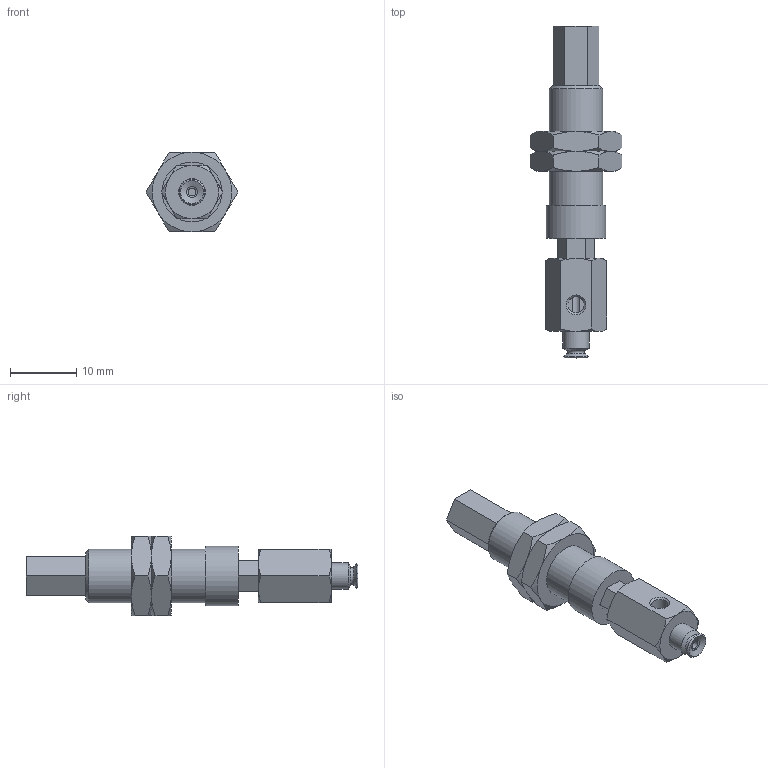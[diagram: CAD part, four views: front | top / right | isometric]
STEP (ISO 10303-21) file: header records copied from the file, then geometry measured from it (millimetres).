
FILE_DESCRIPTION(('STEP AP203'),'1');
FILE_NAME('.stp','2025-04-10T02:12:22',(' '),(' '),'Spatial InterOp 3D',' ',' ');
FILE_SCHEMA(('CONFIG_CONTROL_DESIGN'));
Length unit declared in the file: millimetre
Products named in the file (6): BNABPFYH-3.5A-3-※; CONNECTOR-H-3.5A-3; Nut-3.5A-3-h; NAPFTH-3.5A-3-FBODY; NAPFTH-3.5A-3-MBODY; BPFG-3.5A-※
Assembly tree (6 placements, depth 2):
  BNABPFYH-3.5A-3-※
    CONNECTOR-H-3.5A-3
    Nut-3.5A-3-h  x2
    NAPFTH-3.5A-3-FBODY
    NAPFTH-3.5A-3-MBODY
    BPFG-3.5A-※
Bounding box: 13.86 x 50 x 12 mm (x, y, z)
Volume: 2631.5 mm3; surface area: 3169.6 mm2
Topology: 6 solids, 6 shells, 137 faces, 298 edges, 181 vertices
Faces by surface type: plane 64, cone 51, cylinder 14, torus 7, bspline 1
Full cylindrical faces by diameter (mm): 1.2 x2, 2 x2, 2.459 x2, 3 x3, 4 x1, 7.188 x2, 8 x1, 9 x1
Entity records: 3443 total; most frequent: CARTESIAN_POINT 848, DIRECTION 468, ORIENTED_EDGE 422, EDGE_CURVE 211, AXIS2_PLACEMENT_3D 191, EDGE_LOOP 164, VERTEX_POINT 147, FACE_OUTER_BOUND 135
